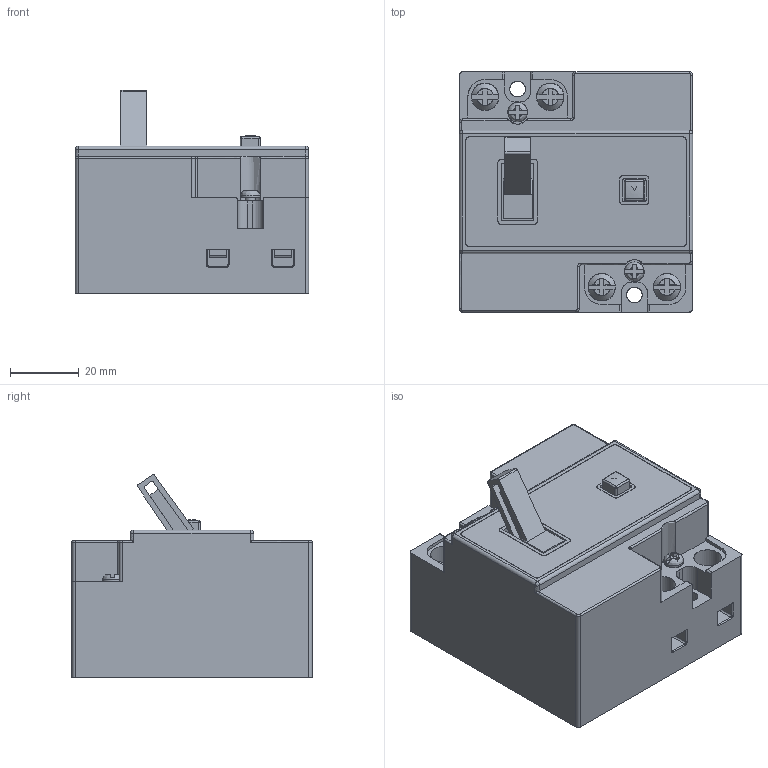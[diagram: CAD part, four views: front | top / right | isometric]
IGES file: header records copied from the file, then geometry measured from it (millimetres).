
Global section: file name: C:\config\05_kd-lb2122j_141029.igs; native system: NX V8.0; preprocessor: SIEMENS PLM Software NX 8.0; date: 20141029.094616; units: millimetre
Bounding box: 68 x 70 x 59.22 mm (x, y, z)
Surface area: 25887.9 mm2 (no closed solid volume)
Topology: 0 solids, 0 shells, 367 faces, 2847 edges, 2824 vertices
Faces by surface type: bspline 367
